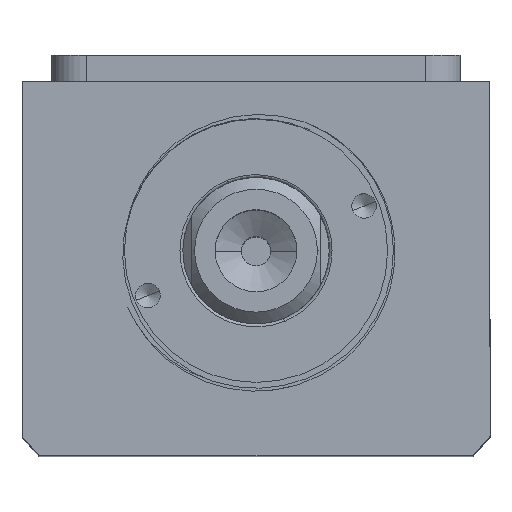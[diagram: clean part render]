
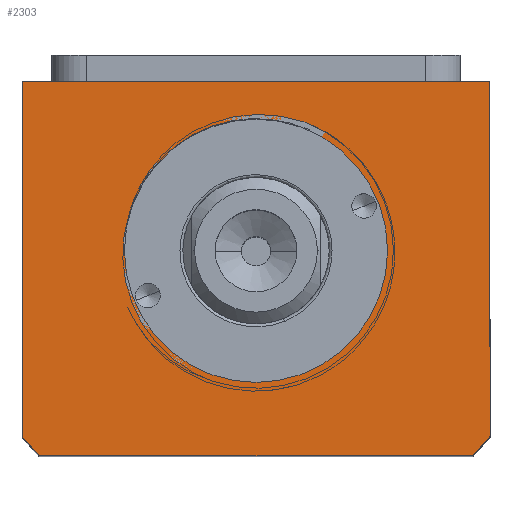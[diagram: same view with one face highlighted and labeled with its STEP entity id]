
A CAD part, top view. The second image highlights one B-rep face of the part: STEP entity #2303.
In plain terms, the highlighted planar face has unit normal (0, 0, 1).
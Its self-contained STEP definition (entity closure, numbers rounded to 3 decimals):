
#139 = EDGE_LOOP ( 'NONE', ( #7528, #4103, #140, #2247, #6418, #8489 ) ) ;
#140 = ORIENTED_EDGE ( 'NONE', *, *, #9550, .T. ) ;
#432 = CARTESIAN_POINT ( 'NONE',  ( 0., -40.507, 125. ) ) ;
#536 = LINE ( 'NONE', #5726, #4506 ) ;
#787 = AXIS2_PLACEMENT_3D ( 'NONE', #432, #5957, #1238 ) ;
#812 = CIRCLE ( 'NONE', #8275, 22.5 ) ;
#912 = FACE_OUTER_BOUND ( 'NONE', #139, .T. ) ;
#1038 = CARTESIAN_POINT ( 'NONE',  ( -40., -75.507, 125. ) ) ;
#1157 = VECTOR ( 'NONE', #4481, 1000. ) ;
#1211 = CARTESIAN_POINT ( 'NONE',  ( -37.094, -75.507, 125. ) ) ;
#1238 = DIRECTION ( 'NONE',  ( 1., 0., 0. ) ) ;
#1911 = CARTESIAN_POINT ( 'NONE',  ( -40., -11.507, 125. ) ) ;
#2028 = DIRECTION ( 'NONE',  ( 0., 0., 1. ) ) ;
#2080 = CARTESIAN_POINT ( 'NONE',  ( 40., -11.507, 125. ) ) ;
#2131 = ORIENTED_EDGE ( 'NONE', *, *, #3652, .F. ) ;
#2247 = ORIENTED_EDGE ( 'NONE', *, *, #6380, .T. ) ;
#2258 = CIRCLE ( 'NONE', #5397, 22.5 ) ;
#2303 = ADVANCED_FACE ( 'NONE', ( #5123, #912 ), #6333, .T. ) ;
#2315 = DIRECTION ( 'NONE',  ( 0., 0., 1. ) ) ;
#2421 = DIRECTION ( 'NONE',  ( 0., 0., 1. ) ) ;
#2619 = ORIENTED_EDGE ( 'NONE', *, *, #9253, .F. ) ;
#2743 = DIRECTION ( 'NONE',  ( 0., -1., 0. ) ) ;
#2795 = CIRCLE ( 'NONE', #4536, 51. ) ;
#3104 = CARTESIAN_POINT ( 'NONE',  ( 0., -40.507, 125. ) ) ;
#3238 = CARTESIAN_POINT ( 'NONE',  ( 37.094, -75.507, 125. ) ) ;
#3264 = CARTESIAN_POINT ( 'NONE',  ( -40., -72.145, 125. ) ) ;
#3612 = VERTEX_POINT ( 'NONE', #9986 ) ;
#3652 = EDGE_CURVE ( 'NONE', #7749, #7292, #2258, .T. ) ;
#3751 = CIRCLE ( 'NONE', #787, 51. ) ;
#3782 = VECTOR ( 'NONE', #2743, 1000. ) ;
#3885 = DIRECTION ( 'NONE',  ( 1., 0., 0. ) ) ;
#3960 = CARTESIAN_POINT ( 'NONE',  ( 22.5, -40.507, 125. ) ) ;
#4093 = VERTEX_POINT ( 'NONE', #3238 ) ;
#4103 = ORIENTED_EDGE ( 'NONE', *, *, #4496, .T. ) ;
#4481 = DIRECTION ( 'NONE',  ( 0., 1., 0. ) ) ;
#4496 = EDGE_CURVE ( 'NONE', #8844, #9715, #3751, .T. ) ;
#4506 = VECTOR ( 'NONE', #4933, 1000. ) ;
#4536 = AXIS2_PLACEMENT_3D ( 'NONE', #6719, #2028, #7503 ) ;
#4570 = EDGE_CURVE ( 'NONE', #3612, #6807, #5331, .T. ) ;
#4933 = DIRECTION ( 'NONE',  ( -1., 0., 0. ) ) ;
#4988 = EDGE_CURVE ( 'NONE', #7482, #8844, #5865, .T. ) ;
#5123 = FACE_BOUND ( 'NONE', #6371, .T. ) ;
#5331 = LINE ( 'NONE', #2080, #1157 ) ;
#5363 = LINE ( 'NONE', #1038, #9498 ) ;
#5397 = AXIS2_PLACEMENT_3D ( 'NONE', #3104, #8554, #3885 ) ;
#5476 = CARTESIAN_POINT ( 'NONE',  ( 0., 0., 125. ) ) ;
#5707 = EDGE_CURVE ( 'NONE', #6807, #7482, #536, .T. ) ;
#5726 = CARTESIAN_POINT ( 'NONE',  ( -40., -11.507, 125. ) ) ;
#5750 = DIRECTION ( 'NONE',  ( 1., 0., 0. ) ) ;
#5865 = LINE ( 'NONE', #8211, #3782 ) ;
#5957 = DIRECTION ( 'NONE',  ( 0., 0., 1. ) ) ;
#6333 = PLANE ( 'NONE',  #9130 ) ;
#6371 = EDGE_LOOP ( 'NONE', ( #2131, #2619 ) ) ;
#6380 = EDGE_CURVE ( 'NONE', #4093, #3612, #2795, .T. ) ;
#6418 = ORIENTED_EDGE ( 'NONE', *, *, #4570, .T. ) ;
#6719 = CARTESIAN_POINT ( 'NONE',  ( 0., -40.507, 125. ) ) ;
#6807 = VERTEX_POINT ( 'NONE', #9638 ) ;
#7002 = CARTESIAN_POINT ( 'NONE',  ( 0., -40.507, 125. ) ) ;
#7292 = VERTEX_POINT ( 'NONE', #8138 ) ;
#7482 = VERTEX_POINT ( 'NONE', #1911 ) ;
#7503 = DIRECTION ( 'NONE',  ( 1., 0., 0. ) ) ;
#7528 = ORIENTED_EDGE ( 'NONE', *, *, #4988, .T. ) ;
#7749 = VERTEX_POINT ( 'NONE', #3960 ) ;
#7798 = DIRECTION ( 'NONE',  ( 1., 0., 0. ) ) ;
#7905 = DIRECTION ( 'NONE',  ( 1., 0., 0. ) ) ;
#8138 = CARTESIAN_POINT ( 'NONE',  ( -22.5, -40.507, 125. ) ) ;
#8211 = CARTESIAN_POINT ( 'NONE',  ( -40., -11.507, 125. ) ) ;
#8275 = AXIS2_PLACEMENT_3D ( 'NONE', #7002, #2315, #7798 ) ;
#8489 = ORIENTED_EDGE ( 'NONE', *, *, #5707, .T. ) ;
#8554 = DIRECTION ( 'NONE',  ( 0., 0., 1. ) ) ;
#8844 = VERTEX_POINT ( 'NONE', #3264 ) ;
#9130 = AXIS2_PLACEMENT_3D ( 'NONE', #5476, #2421, #7905 ) ;
#9253 = EDGE_CURVE ( 'NONE', #7292, #7749, #812, .T. ) ;
#9498 = VECTOR ( 'NONE', #5750, 1000. ) ;
#9550 = EDGE_CURVE ( 'NONE', #9715, #4093, #5363, .T. ) ;
#9638 = CARTESIAN_POINT ( 'NONE',  ( 40., -11.507, 125. ) ) ;
#9715 = VERTEX_POINT ( 'NONE', #1211 ) ;
#9986 = CARTESIAN_POINT ( 'NONE',  ( 40., -72.145, 125. ) ) ;
